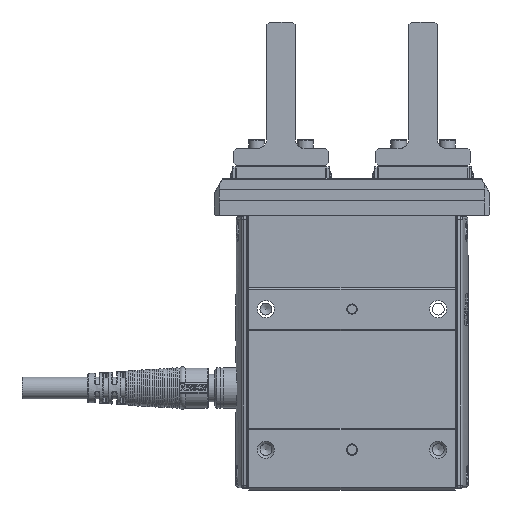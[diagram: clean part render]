
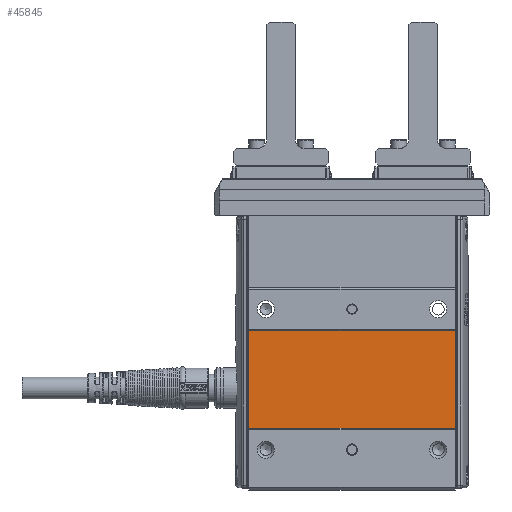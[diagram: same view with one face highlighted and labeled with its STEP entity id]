
A CAD part, front view. The second image highlights one B-rep face of the part: STEP entity #45845.
In plain terms, the highlighted planar face has unit normal (0, -1, 0).
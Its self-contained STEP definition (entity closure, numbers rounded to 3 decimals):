
#4961=PLANE('',#50066);
#6942=FACE_OUTER_BOUND('',#9585,.T.);
#9585=EDGE_LOOP('',(#38636,#38637,#38638,#38639));
#12678=LINE('',#85486,#15857);
#12679=LINE('',#85489,#15858);
#12680=LINE('',#85491,#15859);
#12681=LINE('',#85492,#15860);
#15857=VECTOR('',#60124,10.);
#15858=VECTOR('',#60127,10.);
#15859=VECTOR('',#60128,10.);
#15860=VECTOR('',#60129,10.);
#22425=VERTEX_POINT('',#85482);
#22426=VERTEX_POINT('',#85484);
#22427=VERTEX_POINT('',#85488);
#22428=VERTEX_POINT('',#85490);
#28124=EDGE_CURVE('',#22425,#22426,#12678,.T.);
#28125=EDGE_CURVE('',#22427,#22426,#12679,.T.);
#28126=EDGE_CURVE('',#22427,#22428,#12680,.T.);
#28127=EDGE_CURVE('',#22425,#22428,#12681,.T.);
#38636=ORIENTED_EDGE('',*,*,#28124,.T.);
#38637=ORIENTED_EDGE('',*,*,#28125,.F.);
#38638=ORIENTED_EDGE('',*,*,#28126,.T.);
#38639=ORIENTED_EDGE('',*,*,#28127,.F.);
#45845=ADVANCED_FACE('',(#6942),#4961,.T.);
#50066=AXIS2_PLACEMENT_3D('',#85487,#60125,#60126);
#60124=DIRECTION('',(-1.,0.,0.));
#60125=DIRECTION('center_axis',(0.,-1.,0.));
#60126=DIRECTION('ref_axis',(0.,0.,
-1.));
#60127=DIRECTION('',(0.,0.,1.));
#60128=DIRECTION('',(1.,0.,0.));
#60129=DIRECTION('',(0.,0.,-1.));
#85482=CARTESIAN_POINT('',(36.,-21.,-28.5));
#85484=CARTESIAN_POINT('',(-36.,-21.,-28.5));
#85486=CARTESIAN_POINT('',(0.,-21.,-28.5));
#85487=CARTESIAN_POINT('Origin',(0.,-21.,17.5));
#85488=CARTESIAN_POINT('',(-36.,-21.,-62.5));
#85489=CARTESIAN_POINT('',(-36.,-21.,17.5));
#85490=CARTESIAN_POINT('',(36.,-21.,-62.5));
#85491=CARTESIAN_POINT('',(0.,-21.,-62.5));
#85492=CARTESIAN_POINT('',(36.,-21.,17.5));
